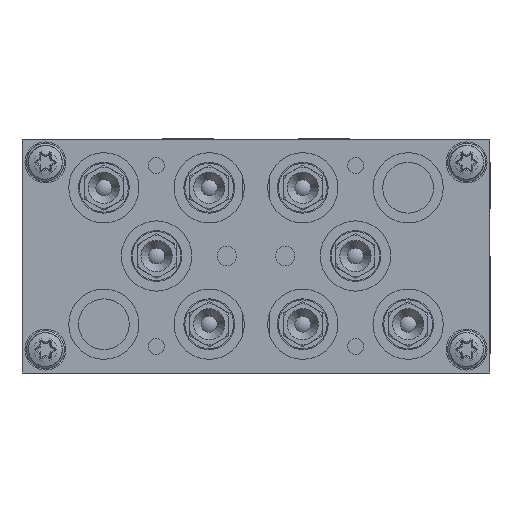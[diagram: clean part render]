
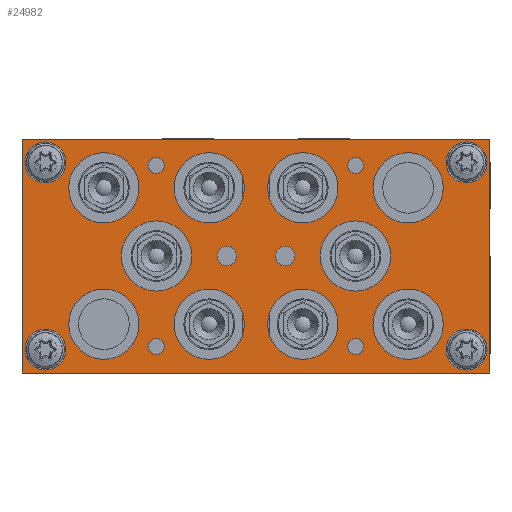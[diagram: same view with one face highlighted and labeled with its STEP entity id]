
A CAD part, left-side view. The second image highlights one B-rep face of the part: STEP entity #24982.
In plain terms, the highlighted planar face has unit normal (-1, 0, 0) as drawn and (0, 0, 1) by its records, which use the part's own axes.
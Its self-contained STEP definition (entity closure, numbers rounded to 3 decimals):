
#2364=LINE('',#59634,#3339);
#2368=LINE('',#59645,#3343);
#2372=LINE('',#59790,#3347);
#2373=LINE('',#59791,#3348);
#3339=VECTOR('',#30769,1000.);
#3343=VECTOR('',#30777,1000.);
#3347=VECTOR('',#30937,1000.);
#3348=VECTOR('',#30938,1000.);
#3715=PLANE('',#26689);
#8561=ORIENTED_EDGE('',*,*,#11205,.F.);
#8562=ORIENTED_EDGE('',*,*,#11206,.F.);
#8563=ORIENTED_EDGE('',*,*,#11207,.F.);
#8564=ORIENTED_EDGE('',*,*,#11208,.F.);
#8565=ORIENTED_EDGE('',*,*,#11209,.F.);
#8566=ORIENTED_EDGE('',*,*,#11210,.F.);
#8567=ORIENTED_EDGE('',*,*,#11211,.T.);
#8568=ORIENTED_EDGE('',*,*,#11212,.T.);
#8569=ORIENTED_EDGE('',*,*,#11213,.T.);
#8570=ORIENTED_EDGE('',*,*,#11214,.T.);
#8571=ORIENTED_EDGE('',*,*,#11215,.T.);
#8572=ORIENTED_EDGE('',*,*,#11216,.T.);
#8573=ORIENTED_EDGE('',*,*,#11217,.T.);
#8574=ORIENTED_EDGE('',*,*,#11147,.T.);
#8575=ORIENTED_EDGE('',*,*,#11218,.T.);
#8576=ORIENTED_EDGE('',*,*,#11152,.T.);
#8577=ORIENTED_EDGE('',*,*,#11219,.T.);
#8578=ORIENTED_EDGE('',*,*,#11220,.T.);
#8579=ORIENTED_EDGE('',*,*,#11221,.T.);
#8580=ORIENTED_EDGE('',*,*,#11222,.T.);
#8581=ORIENTED_EDGE('',*,*,#11223,.T.);
#8582=ORIENTED_EDGE('',*,*,#11224,.T.);
#8583=ORIENTED_EDGE('',*,*,#11225,.T.);
#8584=ORIENTED_EDGE('',*,*,#11226,.T.);
#11147=EDGE_CURVE('',#12754,#12753,#2364,.T.);
#11152=EDGE_CURVE('',#12759,#12758,#2368,.T.);
#11205=EDGE_CURVE('',#12809,#12809,#13584,.T.);
#11206=EDGE_CURVE('',#12810,#12810,#13585,.T.);
#11207=EDGE_CURVE('',#12811,#12811,#13586,.T.);
#11208=EDGE_CURVE('',#12812,#12812,#13587,.T.);
#11209=EDGE_CURVE('',#12813,#12813,#13588,.T.);
#11210=EDGE_CURVE('',#12814,#12814,#13589,.T.);
#11211=EDGE_CURVE('',#12815,#12815,#13590,.T.);
#11212=EDGE_CURVE('',#12816,#12816,#13591,.T.);
#11213=EDGE_CURVE('',#12817,#12817,#13592,.T.);
#11214=EDGE_CURVE('',#12818,#12818,#13593,.T.);
#11215=EDGE_CURVE('',#12819,#12819,#13594,.T.);
#11216=EDGE_CURVE('',#12820,#12820,#13595,.T.);
#11217=EDGE_CURVE('',#12821,#12821,#13596,.T.);
#11218=EDGE_CURVE('',#12753,#12759,#2372,.T.);
#11219=EDGE_CURVE('',#12758,#12754,#2373,.T.);
#11220=EDGE_CURVE('',#12822,#12822,#13597,.T.);
#11221=EDGE_CURVE('',#12823,#12823,#13598,.T.);
#11222=EDGE_CURVE('',#12824,#12824,#13599,.T.);
#11223=EDGE_CURVE('',#12825,#12825,#13600,.T.);
#11224=EDGE_CURVE('',#12826,#12826,#13601,.T.);
#11225=EDGE_CURVE('',#12827,#12827,#13602,.T.);
#11226=EDGE_CURVE('',#12828,#12828,#13603,.T.);
#12753=VERTEX_POINT('',#59633);
#12754=VERTEX_POINT('',#59635);
#12758=VERTEX_POINT('',#59644);
#12759=VERTEX_POINT('',#59646);
#12809=VERTEX_POINT('',#59765);
#12810=VERTEX_POINT('',#59767);
#12811=VERTEX_POINT('',#59769);
#12812=VERTEX_POINT('',#59771);
#12813=VERTEX_POINT('',#59773);
#12814=VERTEX_POINT('',#59775);
#12815=VERTEX_POINT('',#59777);
#12816=VERTEX_POINT('',#59779);
#12817=VERTEX_POINT('',#59781);
#12818=VERTEX_POINT('',#59783);
#12819=VERTEX_POINT('',#59785);
#12820=VERTEX_POINT('',#59787);
#12821=VERTEX_POINT('',#59789);
#12822=VERTEX_POINT('',#59793);
#12823=VERTEX_POINT('',#59795);
#12824=VERTEX_POINT('',#59797);
#12825=VERTEX_POINT('',#59799);
#12826=VERTEX_POINT('',#59801);
#12827=VERTEX_POINT('',#59803);
#12828=VERTEX_POINT('',#59805);
#13584=CIRCLE('',#26690,2.067);
#13585=CIRCLE('',#26691,2.067);
#13586=CIRCLE('',#26692,2.067);
#13587=CIRCLE('',#26693,2.067);
#13588=CIRCLE('',#26694,2.459);
#13589=CIRCLE('',#26695,2.459);
#13590=CIRCLE('',#26696,9.);
#13591=CIRCLE('',#26697,9.);
#13592=CIRCLE('',#26698,9.);
#13593=CIRCLE('',#26699,9.);
#13594=CIRCLE('',#26700,9.);
#13595=CIRCLE('',#26701,5.25);
#13596=CIRCLE('',#26702,5.25);
#13597=CIRCLE('',#26703,5.25);
#13598=CIRCLE('',#26704,9.);
#13599=CIRCLE('',#26705,9.);
#13600=CIRCLE('',#26706,9.);
#13601=CIRCLE('',#26707,9.);
#13602=CIRCLE('',#26708,9.);
#13603=CIRCLE('',#26709,5.25);
#14874=EDGE_LOOP('',(#8561));
#14875=EDGE_LOOP('',(#8562));
#14876=EDGE_LOOP('',(#8563));
#14877=EDGE_LOOP('',(#8564));
#14878=EDGE_LOOP('',(#8565));
#14879=EDGE_LOOP('',(#8566));
#14880=EDGE_LOOP('',(#8567));
#14881=EDGE_LOOP('',(#8568));
#14882=EDGE_LOOP('',(#8569));
#14883=EDGE_LOOP('',(#8570));
#14884=EDGE_LOOP('',(#8571));
#14885=EDGE_LOOP('',(#8572));
#14886=EDGE_LOOP('',(#8573));
#14887=EDGE_LOOP('',(#8574,#8575,#8576,#8577));
#14888=EDGE_LOOP('',(#8578));
#14889=EDGE_LOOP('',(#8579));
#14890=EDGE_LOOP('',(#8580));
#14891=EDGE_LOOP('',(#8581));
#14892=EDGE_LOOP('',(#8582));
#14893=EDGE_LOOP('',(#8583));
#14894=EDGE_LOOP('',(#8584));
#16265=FACE_BOUND('',#14874,.T.);
#16266=FACE_BOUND('',#14875,.T.);
#16267=FACE_BOUND('',#14876,.T.);
#16268=FACE_BOUND('',#14877,.T.);
#16269=FACE_BOUND('',#14878,.T.);
#16270=FACE_BOUND('',#14879,.T.);
#16271=FACE_BOUND('',#14880,.T.);
#16272=FACE_BOUND('',#14881,.T.);
#16273=FACE_BOUND('',#14882,.T.);
#16274=FACE_BOUND('',#14883,.T.);
#16275=FACE_BOUND('',#14884,.T.);
#16276=FACE_BOUND('',#14885,.T.);
#16277=FACE_BOUND('',#14886,.T.);
#16278=FACE_BOUND('',#14887,.T.);
#16279=FACE_BOUND('',#14888,.T.);
#16280=FACE_BOUND('',#14889,.T.);
#16281=FACE_BOUND('',#14890,.T.);
#16282=FACE_BOUND('',#14891,.T.);
#16283=FACE_BOUND('',#14892,.T.);
#16284=FACE_BOUND('',#14893,.T.);
#16285=FACE_BOUND('',#14894,.T.);
#24982=ADVANCED_FACE('',(#16265,#16266,#16267,#16268,#16269,#16270,#16271,
#16272,#16273,#16274,#16275,#16276,#16277,#16278,#16279,#16280,#16281,#16282,
#16283,#16284,#16285),#3715,.T.);
#26689=AXIS2_PLACEMENT_3D('',#59763,#30909,#30910);
#26690=AXIS2_PLACEMENT_3D('',#59764,#30911,#30912);
#26691=AXIS2_PLACEMENT_3D('',#59766,#30913,#30914);
#26692=AXIS2_PLACEMENT_3D('',#59768,#30915,#30916);
#26693=AXIS2_PLACEMENT_3D('',#59770,#30917,#30918);
#26694=AXIS2_PLACEMENT_3D('',#59772,#30919,#30920);
#26695=AXIS2_PLACEMENT_3D('',#59774,#30921,#30922);
#26696=AXIS2_PLACEMENT_3D('',#59776,#30923,#30924);
#26697=AXIS2_PLACEMENT_3D('',#59778,#30925,#30926);
#26698=AXIS2_PLACEMENT_3D('',#59780,#30927,#30928);
#26699=AXIS2_PLACEMENT_3D('',#59782,#30929,#30930);
#26700=AXIS2_PLACEMENT_3D('',#59784,#30931,#30932);
#26701=AXIS2_PLACEMENT_3D('',#59786,#30933,#30934);
#26702=AXIS2_PLACEMENT_3D('',#59788,#30935,#30936);
#26703=AXIS2_PLACEMENT_3D('',#59792,#30939,#30940);
#26704=AXIS2_PLACEMENT_3D('',#59794,#30941,#30942);
#26705=AXIS2_PLACEMENT_3D('',#59796,#30943,#30944);
#26706=AXIS2_PLACEMENT_3D('',#59798,#30945,#30946);
#26707=AXIS2_PLACEMENT_3D('',#59800,#30947,#30948);
#26708=AXIS2_PLACEMENT_3D('',#59802,#30949,#30950);
#26709=AXIS2_PLACEMENT_3D('',#59804,#30951,#30952);
#30769=DIRECTION('',(-1.,0.,0.));
#30777=DIRECTION('',(1.,0.,0.));
#30909=DIRECTION('',(0.,0.,1.));
#30910=DIRECTION('',(1.,0.,0.));
#30911=DIRECTION('',(0.,0.,1.));
#30912=DIRECTION('',(1.,0.,0.));
#30913=DIRECTION('',(0.,0.,1.));
#30914=DIRECTION('',(1.,0.,0.));
#30915=DIRECTION('',(0.,0.,1.));
#30916=DIRECTION('',(1.,0.,0.));
#30917=DIRECTION('',(0.,0.,1.));
#30918=DIRECTION('',(1.,0.,0.));
#30919=DIRECTION('',(0.,0.,1.));
#30920=DIRECTION('',(1.,0.,0.));
#30921=DIRECTION('',(0.,0.,1.));
#30922=DIRECTION('',(1.,0.,0.));
#30923=DIRECTION('',(0.,0.,-1.));
#30924=DIRECTION('',(1.,0.,0.));
#30925=DIRECTION('',(0.,0.,-1.));
#30926=DIRECTION('',(1.,0.,0.));
#30927=DIRECTION('',(0.,0.,-1.));
#30928=DIRECTION('',(1.,0.,0.));
#30929=DIRECTION('',(0.,0.,-1.));
#30930=DIRECTION('',(1.,0.,0.));
#30931=DIRECTION('',(0.,0.,-1.));
#30932=DIRECTION('',(1.,0.,0.));
#30933=DIRECTION('',(0.,0.,-1.));
#30934=DIRECTION('',(1.,0.,0.));
#30935=DIRECTION('',(0.,0.,-1.));
#30936=DIRECTION('',(1.,0.,0.));
#30937=DIRECTION('',(0.,-1.,0.));
#30938=DIRECTION('',(0.,1.,0.));
#30939=DIRECTION('',(0.,0.,-1.));
#30940=DIRECTION('',(1.,0.,0.));
#30941=DIRECTION('',(0.,0.,-1.));
#30942=DIRECTION('',(1.,0.,0.));
#30943=DIRECTION('',(0.,0.,-1.));
#30944=DIRECTION('',(1.,0.,0.));
#30945=DIRECTION('',(0.,0.,-1.));
#30946=DIRECTION('',(1.,0.,0.));
#30947=DIRECTION('',(0.,0.,-1.));
#30948=DIRECTION('',(1.,0.,0.));
#30949=DIRECTION('',(0.,0.,-1.));
#30950=DIRECTION('',(1.,0.,0.));
#30951=DIRECTION('',(0.,0.,-1.));
#30952=DIRECTION('',(1.,0.,0.));
#59633=CARTESIAN_POINT('',(-60.,30.,15.));
#59634=CARTESIAN_POINT('',(60.,30.,15.));
#59635=CARTESIAN_POINT('',(60.,30.,15.));
#59644=CARTESIAN_POINT('',(60.,-30.,15.));
#59645=CARTESIAN_POINT('',(-60.,-30.,15.));
#59646=CARTESIAN_POINT('',(-60.,-30.,15.));
#59763=CARTESIAN_POINT('',(-60.,30.,15.));
#59764=CARTESIAN_POINT('',(25.6,23.2,15.));
#59765=CARTESIAN_POINT('',(27.667,23.2,15.));
#59766=CARTESIAN_POINT('',(-25.6,23.2,15.));
#59767=CARTESIAN_POINT('',(-23.533,23.2,15.));
#59768=CARTESIAN_POINT('',(-25.6,-23.2,15.));
#59769=CARTESIAN_POINT('',(-23.533,-23.2,15.));
#59770=CARTESIAN_POINT('',(25.6,-23.2,15.));
#59771=CARTESIAN_POINT('',(27.667,-23.2,15.));
#59772=CARTESIAN_POINT('',(7.5,0.,15.));
#59773=CARTESIAN_POINT('',(9.959,0.,15.));
#59774=CARTESIAN_POINT('',(-7.5,0.,15.));
#59775=CARTESIAN_POINT('',(-5.041,0.,15.));
#59776=CARTESIAN_POINT('',(25.5,0.,15.));
#59777=CARTESIAN_POINT('',(34.5,0.,15.));
#59778=CARTESIAN_POINT('',(39.,17.5,15.));
#59779=CARTESIAN_POINT('',(48.,17.5,15.));
#59780=CARTESIAN_POINT('',(-39.,-17.5,15.));
#59781=CARTESIAN_POINT('',(-30.,-17.5,15.));
#59782=CARTESIAN_POINT('',(-12.,-17.5,15.));
#59783=CARTESIAN_POINT('',(-3.,-17.5,15.));
#59784=CARTESIAN_POINT('',(12.,17.5,15.));
#59785=CARTESIAN_POINT('',(21.,17.5,15.));
#59786=CARTESIAN_POINT('',(-54.,-24.,15.));
#59787=CARTESIAN_POINT('',(-48.75,-24.,15.));
#59788=CARTESIAN_POINT('',(54.,24.,15.));
#59789=CARTESIAN_POINT('',(59.25,24.,15.));
#59790=CARTESIAN_POINT('',(-60.,30.,15.));
#59791=CARTESIAN_POINT('',(60.,-30.,15.));
#59792=CARTESIAN_POINT('',(54.,-24.,15.));
#59793=CARTESIAN_POINT('',(59.25,-24.,15.));
#59794=CARTESIAN_POINT('',(-12.,17.5,15.));
#59795=CARTESIAN_POINT('',(-3.,17.5,15.));
#59796=CARTESIAN_POINT('',(12.,-17.5,15.));
#59797=CARTESIAN_POINT('',(21.,-17.5,15.));
#59798=CARTESIAN_POINT('',(-39.,17.5,15.));
#59799=CARTESIAN_POINT('',(-30.,17.5,15.));
#59800=CARTESIAN_POINT('',(39.,-17.5,15.));
#59801=CARTESIAN_POINT('',(48.,-17.5,15.));
#59802=CARTESIAN_POINT('',(-25.5,0.,15.));
#59803=CARTESIAN_POINT('',(-16.5,0.,15.));
#59804=CARTESIAN_POINT('',(-54.,24.,15.));
#59805=CARTESIAN_POINT('',(-48.75,24.,15.));
